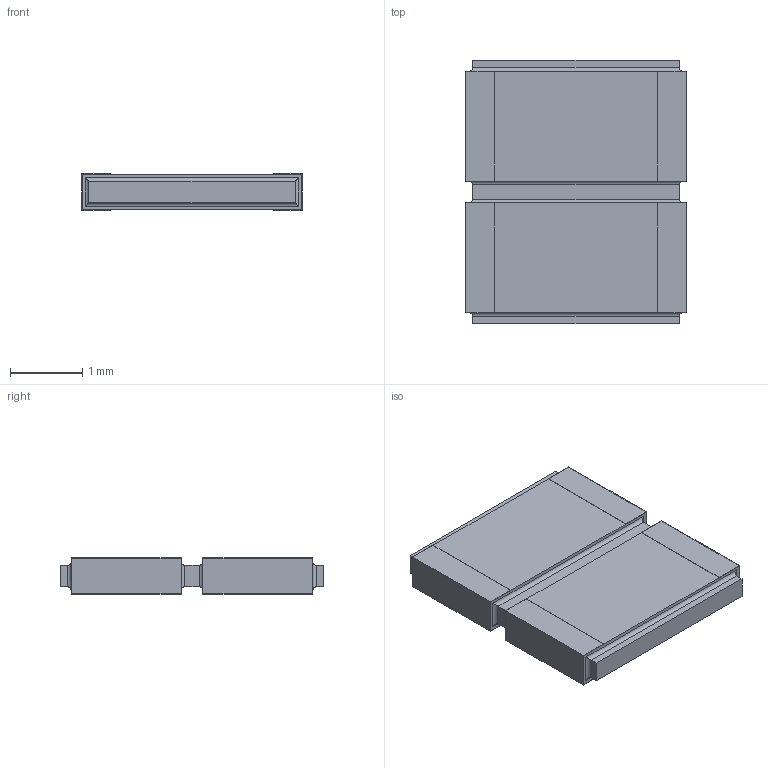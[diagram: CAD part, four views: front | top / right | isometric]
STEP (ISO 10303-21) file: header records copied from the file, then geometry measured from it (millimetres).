
FILE_DESCRIPTION(/* description */ (''),/* implementation_level */ '2;1');
FILE_NAME(/* name */ 'S:\DOCUMENT\AUTOCAD\3D_Modèles\10_3D-pour-VISHAY-COM\PRA\PRA182\PRA182-I2_à_I8\10_IGES\PRA182I2_B-or-N-or-G.stp',/* time_stamp */ '2017-12-18T15:17:40+01:00',/* author */ ('dparmentier'),/* organization */ ('unknown'),/* preprocessor_version */ 'ST-DEVELOPER v17',/* originating_system */ 'Autodesk Inventor 2018',/* authorisation */ '');
FILE_SCHEMA (('AUTOMOTIVE_DESIGN { 1 0 10303 214 3 1 1 }'));
Length unit declared in the file: millimetre
Products named in the file (1): PRA182I2_B-or-N-or-G
Bounding box: 3.06 x 3.65 x 0.5 mm (x, y, z)
Volume: 5.1 mm3; surface area: 45 mm2
Topology: 5 solids, 5 shells, 82 faces, 188 edges, 120 vertices
Faces by surface type: plane 66, cylinder 16
Entity records: 2309 total; most frequent: CARTESIAN_POINT 391, ORIENTED_EDGE 376, DIRECTION 370, EDGE_CURVE 188, LINE 172, VECTOR 172, VERTEX_POINT 120, AXIS2_PLACEMENT_3D 99
